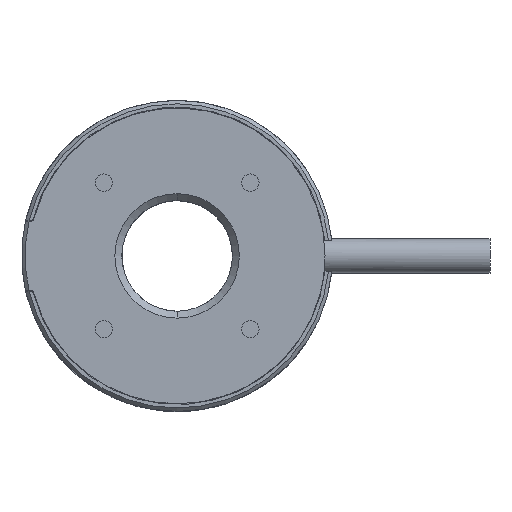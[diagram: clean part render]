
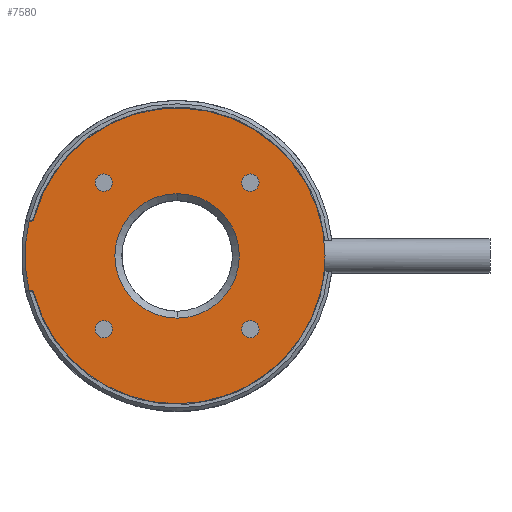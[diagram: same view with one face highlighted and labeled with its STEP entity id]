
A CAD part, top view. The second image highlights one B-rep face of the part: STEP entity #7580.
In plain terms, the highlighted planar face has unit normal (0, 0, 1).
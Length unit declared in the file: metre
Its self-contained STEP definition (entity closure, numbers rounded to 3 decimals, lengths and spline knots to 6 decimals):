
#1480=CARTESIAN_POINT('',(0.,0.,0.002));
#1481=DIRECTION('',(0.,0.,-1.));
#1482=DIRECTION('',(0.,-1.,0.));
#1483=AXIS2_PLACEMENT_3D('',#1480,#1481,#1482);
#1485=CARTESIAN_POINT('',(0.,0.,0.002));
#1486=DIRECTION('',(0.,0.,-1.));
#1487=DIRECTION('',(0.,1.,0.));
#1488=AXIS2_PLACEMENT_3D('',#1485,#1486,#1487);
#1490=CARTESIAN_POINT('',(0.010607,0.010607,0.002));
#1491=DIRECTION('',(0.,0.,-1.));
#1492=DIRECTION('',(0.,1.,0.));
#1493=AXIS2_PLACEMENT_3D('',#1490,#1491,#1492);
#1495=CARTESIAN_POINT('',(0.010607,0.010607,0.002));
#1496=DIRECTION('',(0.,0.,-1.));
#1497=DIRECTION('',(0.,-1.,0.));
#1498=AXIS2_PLACEMENT_3D('',#1495,#1496,#1497);
#1500=CARTESIAN_POINT('',(-0.010607,0.010607,0.002));
#1501=DIRECTION('',(0.,0.,-1.));
#1502=DIRECTION('',(-1.,0.,0.));
#1503=AXIS2_PLACEMENT_3D('',#1500,#1501,#1502);
#1505=CARTESIAN_POINT('',(-0.010607,0.010607,0.002));
#1506=DIRECTION('',(0.,0.,-1.));
#1507=DIRECTION('',(1.,0.,0.));
#1508=AXIS2_PLACEMENT_3D('',#1505,#1506,#1507);
#1510=CARTESIAN_POINT('',(-0.010607,-0.010607,0.002));
#1511=DIRECTION('',(0.,0.,-1.));
#1512=DIRECTION('',(0.,-1.,0.));
#1513=AXIS2_PLACEMENT_3D('',#1510,#1511,#1512);
#1515=CARTESIAN_POINT('',(-0.010607,-0.010607,0.002));
#1516=DIRECTION('',(0.,0.,-1.));
#1517=DIRECTION('',(0.,1.,0.));
#1518=AXIS2_PLACEMENT_3D('',#1515,#1516,#1517);
#1520=CARTESIAN_POINT('',(0.010607,-0.010607,0.002));
#1521=DIRECTION('',(0.,0.,-1.));
#1522=DIRECTION('',(1.,0.,0.));
#1523=AXIS2_PLACEMENT_3D('',#1520,#1521,#1522);
#1525=CARTESIAN_POINT('',(0.010607,-0.010607,0.002));
#1526=DIRECTION('',(0.,0.,-1.));
#1527=DIRECTION('',(-1.,0.,0.));
#1528=AXIS2_PLACEMENT_3D('',#1525,#1526,#1527);
#1530=CARTESIAN_POINT('',(-0.021198,0.0055,0.002));
#1531=DIRECTION('',(0.,0.,-1.));
#1532=DIRECTION('',(0.968,-0.251,0.));
#1533=AXIS2_PLACEMENT_3D('',#1530,#1531,#1532);
#1535=CARTESIAN_POINT('',(0.,0.,0.002));
#1536=DIRECTION('',(0.,0.,1.));
#1537=DIRECTION('',(1.,0.,0.));
#1538=AXIS2_PLACEMENT_3D('',#1535,#1536,#1537);
#1540=CARTESIAN_POINT('',(0.,0.,0.002));
#1541=DIRECTION('',(0.,0.,1.));
#1542=DIRECTION('',(0.968,-0.251,0.));
#1543=AXIS2_PLACEMENT_3D('',#1540,#1541,#1542);
#1545=CARTESIAN_POINT('',(0.,0.,0.002));
#1546=DIRECTION('',(0.,0.,1.));
#1547=DIRECTION('',(-0.968,-0.251,0.));
#1548=AXIS2_PLACEMENT_3D('',#1545,#1546,#1547);
#1550=CARTESIAN_POINT('',(-0.021198,-0.0055,0.002));
#1551=DIRECTION('',(0.,0.,-1.));
#1552=DIRECTION('',(0.,1.,0.));
#1553=AXIS2_PLACEMENT_3D('',#1550,#1551,#1552);
#1555=CARTESIAN_POINT('',(0.,0.,0.002));
#1556=DIRECTION('',(0.,0.,1.));
#1557=DIRECTION('',(-0.974,0.227,0.));
#1558=AXIS2_PLACEMENT_3D('',#1555,#1556,#1557);
#2237=DIRECTION('',(1.,0.,0.));
#2238=VECTOR('',#2237,0.000226);
#2239=CARTESIAN_POINT('',(-0.021424,0.005,0.002));
#2240=LINE('',#2239,#2238);
#2318=DIRECTION('',(-1.,0.,0.));
#2319=VECTOR('',#2318,0.000226);
#2320=CARTESIAN_POINT('',(-0.021198,-0.005,0.002));
#2321=LINE('',#2320,#2319);
#4364=CARTESIAN_POINT('',(-0.020714,-0.005374,0.002));
#4365=CARTESIAN_POINT('',(0.020714,-0.005374,0.002));
#4366=VERTEX_POINT('',#4364);
#4367=VERTEX_POINT('',#4365);
#4368=CARTESIAN_POINT('',(0.0214,0.,0.002));
#4369=VERTEX_POINT('',#4368);
#4370=CARTESIAN_POINT('',(-0.020714,0.005374,0.002));
#4371=VERTEX_POINT('',#4370);
#4372=CARTESIAN_POINT('',(-0.021198,-0.005,0.002));
#4373=VERTEX_POINT('',#4372);
#4374=CARTESIAN_POINT('',(-0.021424,-0.005,0.002));
#4375=VERTEX_POINT('',#4374);
#4376=CARTESIAN_POINT('',(-0.021424,0.005,0.002));
#4377=VERTEX_POINT('',#4376);
#4378=CARTESIAN_POINT('',(-0.021198,0.005,0.002));
#4379=VERTEX_POINT('',#4378);
#4380=CARTESIAN_POINT('',(0.009357,-0.010607,0.002));
#4381=CARTESIAN_POINT('',(0.011857,-0.010607,0.002));
#4382=VERTEX_POINT('',#4380);
#4383=VERTEX_POINT('',#4381);
#4384=CARTESIAN_POINT('',(-0.010607,-0.009357,0.002));
#4385=CARTESIAN_POINT('',(-0.010607,-0.011857,0.002));
#4386=VERTEX_POINT('',#4384);
#4387=VERTEX_POINT('',#4385);
#4388=CARTESIAN_POINT('',(-0.009357,0.010607,0.002));
#4389=CARTESIAN_POINT('',(-0.011857,0.010607,0.002));
#4390=VERTEX_POINT('',#4388);
#4391=VERTEX_POINT('',#4389);
#4392=CARTESIAN_POINT('',(0.010607,0.009357,0.002));
#4393=CARTESIAN_POINT('',(0.010607,0.011857,0.002));
#4394=VERTEX_POINT('',#4392);
#4395=VERTEX_POINT('',#4393);
#4396=CARTESIAN_POINT('',(0.,0.009,0.002));
#4397=CARTESIAN_POINT('',(0.,-0.009,0.002));
#4398=VERTEX_POINT('',#4396);
#4399=VERTEX_POINT('',#4397);
#7529=CARTESIAN_POINT('',(0.,0.,0.002));
#7530=DIRECTION('',(0.,0.,-1.));
#7531=DIRECTION('',(0.,1.,0.));
#7532=AXIS2_PLACEMENT_3D('',#7529,#7530,#7531);
#7533=PLANE('',#7532);
#7535=ORIENTED_EDGE('',*,*,#7534,.F.);
#7537=ORIENTED_EDGE('',*,*,#7536,.F.);
#7539=ORIENTED_EDGE('',*,*,#7538,.F.);
#7541=ORIENTED_EDGE('',*,*,#7540,.F.);
#7543=ORIENTED_EDGE('',*,*,#7542,.F.);
#7545=ORIENTED_EDGE('',*,*,#7544,.T.);
#7547=ORIENTED_EDGE('',*,*,#7546,.F.);
#7549=ORIENTED_EDGE('',*,*,#7548,.T.);
#7550=EDGE_LOOP('',(#7535,#7537,#7539,#7541,#7543,#7545,#7547,#7549));
#7551=FACE_OUTER_BOUND('',#7550,.F.);
#7553=ORIENTED_EDGE('',*,*,#7552,.F.);
#7555=ORIENTED_EDGE('',*,*,#7554,.F.);
#7556=EDGE_LOOP('',(#7553,#7555));
#7557=FACE_BOUND('',#7556,.F.);
#7559=ORIENTED_EDGE('',*,*,#7558,.F.);
#7561=ORIENTED_EDGE('',*,*,#7560,.F.);
#7562=EDGE_LOOP('',(#7559,#7561));
#7563=FACE_BOUND('',#7562,.F.);
#7565=ORIENTED_EDGE('',*,*,#7564,.F.);
#7567=ORIENTED_EDGE('',*,*,#7566,.F.);
#7568=EDGE_LOOP('',(#7565,#7567));
#7569=FACE_BOUND('',#7568,.F.);
#7571=ORIENTED_EDGE('',*,*,#7570,.F.);
#7573=ORIENTED_EDGE('',*,*,#7572,.F.);
#7574=EDGE_LOOP('',(#7571,#7573));
#7575=FACE_BOUND('',#7574,.F.);
#7576=ORIENTED_EDGE('',*,*,#7508,.F.);
#7577=ORIENTED_EDGE('',*,*,#7522,.F.);
#7578=EDGE_LOOP('',(#7576,#7577));
#7579=FACE_BOUND('',#7578,.F.);
#7580=ADVANCED_FACE('',(#7551,#7557,#7563,#7569,#7575,#7579),#7533,.F.);
#1484=CIRCLE('',#1483,0.009);
#1489=CIRCLE('',#1488,0.009);
#1494=CIRCLE('',#1493,0.00125);
#1499=CIRCLE('',#1498,0.00125);
#1504=CIRCLE('',#1503,0.00125);
#1509=CIRCLE('',#1508,0.00125);
#1514=CIRCLE('',#1513,0.00125);
#1519=CIRCLE('',#1518,0.00125);
#1524=CIRCLE('',#1523,0.00125);
#1529=CIRCLE('',#1528,0.00125);
#1534=CIRCLE('',#1533,0.0005);
#1539=CIRCLE('',#1538,0.0214);
#1544=CIRCLE('',#1543,0.0214);
#1549=CIRCLE('',#1548,0.0214);
#1554=CIRCLE('',#1553,0.0005);
#1559=CIRCLE('',#1558,0.022);
#7508=EDGE_CURVE('',#4399,#4398,#1484,.T.);
#7522=EDGE_CURVE('',#4398,#4399,#1489,.T.);
#7534=EDGE_CURVE('',#4371,#4379,#1534,.T.);
#7536=EDGE_CURVE('',#4369,#4371,#1539,.T.);
#7538=EDGE_CURVE('',#4367,#4369,#1544,.T.);
#7540=EDGE_CURVE('',#4366,#4367,#1549,.T.);
#7542=EDGE_CURVE('',#4373,#4366,#1554,.T.);
#7544=EDGE_CURVE('',#4373,#4375,#2321,.T.);
#7546=EDGE_CURVE('',#4377,#4375,#1559,.T.);
#7548=EDGE_CURVE('',#4377,#4379,#2240,.T.);
#7552=EDGE_CURVE('',#4395,#4394,#1494,.T.);
#7554=EDGE_CURVE('',#4394,#4395,#1499,.T.);
#7558=EDGE_CURVE('',#4391,#4390,#1504,.T.);
#7560=EDGE_CURVE('',#4390,#4391,#1509,.T.);
#7564=EDGE_CURVE('',#4387,#4386,#1514,.T.);
#7566=EDGE_CURVE('',#4386,#4387,#1519,.T.);
#7570=EDGE_CURVE('',#4383,#4382,#1524,.T.);
#7572=EDGE_CURVE('',#4382,#4383,#1529,.T.);
